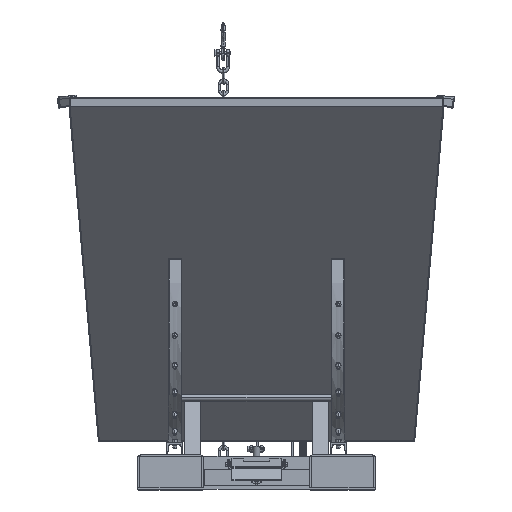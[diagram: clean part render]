
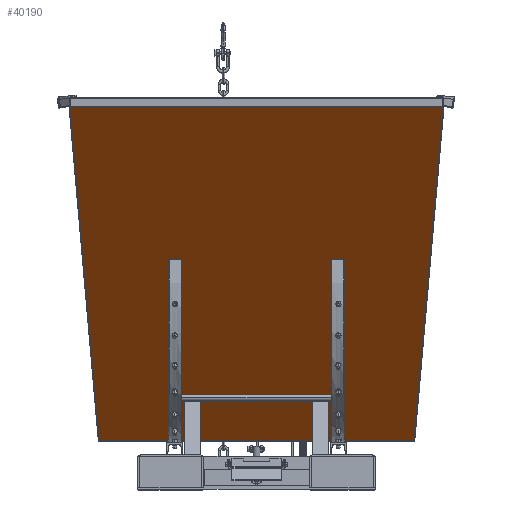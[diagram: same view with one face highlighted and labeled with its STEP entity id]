
A CAD part, top view. The second image highlights one B-rep face of the part: STEP entity #40190.
In plain terms, the highlighted planar face has unit normal (0, -0.707, 0.707) as drawn and (-0.707, -0.707, 0) by its records, which use the part's own axes.
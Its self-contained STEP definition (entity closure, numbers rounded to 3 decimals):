
#180 = CARTESIAN_POINT ( 'NONE',  ( -223.884, 994.925, -567.792 ) ) ;
#577 = VECTOR ( 'NONE', #12797, 1000. ) ;
#1601 = VECTOR ( 'NONE', #11360, 1000. ) ;
#1665 = EDGE_CURVE ( 'NONE', #5749, #38213, #33598, .T. ) ;
#1802 = CARTESIAN_POINT ( 'NONE',  ( 773.162, -2.121, -1648. ) ) ;
#5334 = EDGE_CURVE ( 'NONE', #38213, #5675, #19962, .T. ) ;
#5675 = VERTEX_POINT ( 'NONE', #26943 ) ;
#5749 = VERTEX_POINT ( 'NONE', #10904 ) ;
#7033 = CARTESIAN_POINT ( 'NONE',  ( -273.766, 1044.807, 571.971 ) ) ;
#7415 = LINE ( 'NONE', #7033, #24664 ) ;
#8508 = EDGE_CURVE ( 'NONE', #17300, #43128, #27376, .T. ) ;
#8987 = EDGE_CURVE ( 'NONE', #40402, #18528, #7415, .T. ) ;
#10094 = ORIENTED_EDGE ( 'NONE', *, *, #5334, .T. ) ;
#10334 = CARTESIAN_POINT ( 'NONE',  ( 611.833, 159.208, 494.676 ) ) ;
#10741 = DIRECTION ( 'NONE',  ( 0.706, -0.706, 0.062 ) ) ;
#10904 = CARTESIAN_POINT ( 'NONE',  ( 611.833, 159.208, -494.676 ) ) ;
#11110 = CARTESIAN_POINT ( 'NONE',  ( -273.754, 1044.795, 572.25 ) ) ;
#11162 = AXIS2_PLACEMENT_3D ( 'NONE', #32778, #39451, #36571 ) ;
#11360 = DIRECTION ( 'NONE',  ( 0., 0., 1. ) ) ;
#12797 = DIRECTION ( 'NONE',  ( 0., 0., 1. ) ) ;
#14207 = ORIENTED_EDGE ( 'NONE', *, *, #24086, .F. ) ;
#15056 = LINE ( 'NONE', #11110, #31785 ) ;
#15598 = PLANE ( 'NONE',  #11162 ) ;
#16937 = DIRECTION ( 'NONE',  ( -0.706, 0.706, 0.062 ) ) ;
#17300 = VERTEX_POINT ( 'NONE', #25992 ) ;
#18528 = VERTEX_POINT ( 'NONE', #41156 ) ;
#19962 = LINE ( 'NONE', #1802, #577 ) ;
#21696 = CARTESIAN_POINT ( 'NONE',  ( -223.892, 994.933, -567.607 ) ) ;
#21918 = VECTOR ( 'NONE', #16937, 1000. ) ;
#23044 = EDGE_CURVE ( 'NONE', #40402, #43128, #15056, .T. ) ;
#23313 = CARTESIAN_POINT ( 'NONE',  ( -273.758, 1044.799, 572.156 ) ) ;
#23740 = ORIENTED_EDGE ( 'NONE', *, *, #8508, .F. ) ;
#24048 = CARTESIAN_POINT ( 'NONE',  ( -273.754, 1044.795, 571.97 ) ) ;
#24086 = EDGE_CURVE ( 'NONE', #18528, #40499, #35547, .T. ) ;
#24664 = VECTOR ( 'NONE', #38092, 1000. ) ;
#24995 = CARTESIAN_POINT ( 'NONE',  ( 611.833, 159.208, -1648. ) ) ;
#25992 = CARTESIAN_POINT ( 'NONE',  ( 611.833, 159.208, -494.491 ) ) ;
#26555 = FACE_OUTER_BOUND ( 'NONE', #42761, .T. ) ;
#26935 = ORIENTED_EDGE ( 'NONE', *, *, #23044, .T. ) ;
#26943 = CARTESIAN_POINT ( 'NONE',  ( 773.162, -2.121, 480.562 ) ) ;
#27206 = CARTESIAN_POINT ( 'NONE',  ( 773.162, -2.121, -480.562 ) ) ;
#27250 = EDGE_CURVE ( 'NONE', #5675, #40499, #39181, .T. ) ;
#27376 = LINE ( 'NONE', #21696, #38716 ) ;
#29448 = ORIENTED_EDGE ( 'NONE', *, *, #8987, .F. ) ;
#30885 = VECTOR ( 'NONE', #10741, 1000. ) ;
#31592 = DIRECTION ( 'NONE',  ( 0., 0., 1. ) ) ;
#31785 = VECTOR ( 'NONE', #35219, 1000. ) ;
#32778 = CARTESIAN_POINT ( 'NONE',  ( -273.754, 1044.795, 572.25 ) ) ;
#33598 = LINE ( 'NONE', #180, #30885 ) ;
#34789 = EDGE_CURVE ( 'NONE', #5749, #17300, #40477, .T. ) ;
#35219 = DIRECTION ( 'NONE',  ( 0., 0., -1. ) ) ;
#35547 = LINE ( 'NONE', #35759, #1601 ) ;
#35759 = CARTESIAN_POINT ( 'NONE',  ( 611.833, 159.208, -1648. ) ) ;
#36265 = CARTESIAN_POINT ( 'NONE',  ( -273.754, 1044.795, -571.97 ) ) ;
#36277 = ORIENTED_EDGE ( 'NONE', *, *, #1665, .T. ) ;
#36571 = DIRECTION ( 'NONE',  ( -0.707, 0.707, 0. ) ) ;
#38092 = DIRECTION ( 'NONE',  ( 0.706, -0.706, -0.062 ) ) ;
#38213 = VERTEX_POINT ( 'NONE', #27206 ) ;
#38716 = VECTOR ( 'NONE', #42347, 1000. ) ;
#38826 = VECTOR ( 'NONE', #31592, 1000. ) ;
#39181 = LINE ( 'NONE', #23313, #21918 ) ;
#39451 = DIRECTION ( 'NONE',  ( 0.707, 0.707, 0. ) ) ;
#40190 = ADVANCED_FACE ( 'NONE', ( #26555 ), #15598, .F. ) ;
#40280 = ORIENTED_EDGE ( 'NONE', *, *, #27250, .T. ) ;
#40402 = VERTEX_POINT ( 'NONE', #24048 ) ;
#40477 = LINE ( 'NONE', #24995, #38826 ) ;
#40499 = VERTEX_POINT ( 'NONE', #10334 ) ;
#41150 = ORIENTED_EDGE ( 'NONE', *, *, #34789, .F. ) ;
#41156 = CARTESIAN_POINT ( 'NONE',  ( 611.833, 159.208, 494.491 ) ) ;
#42347 = DIRECTION ( 'NONE',  ( -0.706, 0.706, -0.062 ) ) ;
#42761 = EDGE_LOOP ( 'NONE', ( #10094, #40280, #14207, #29448, #26935, #23740, #41150, #36277 ) ) ;
#43128 = VERTEX_POINT ( 'NONE', #36265 ) ;
